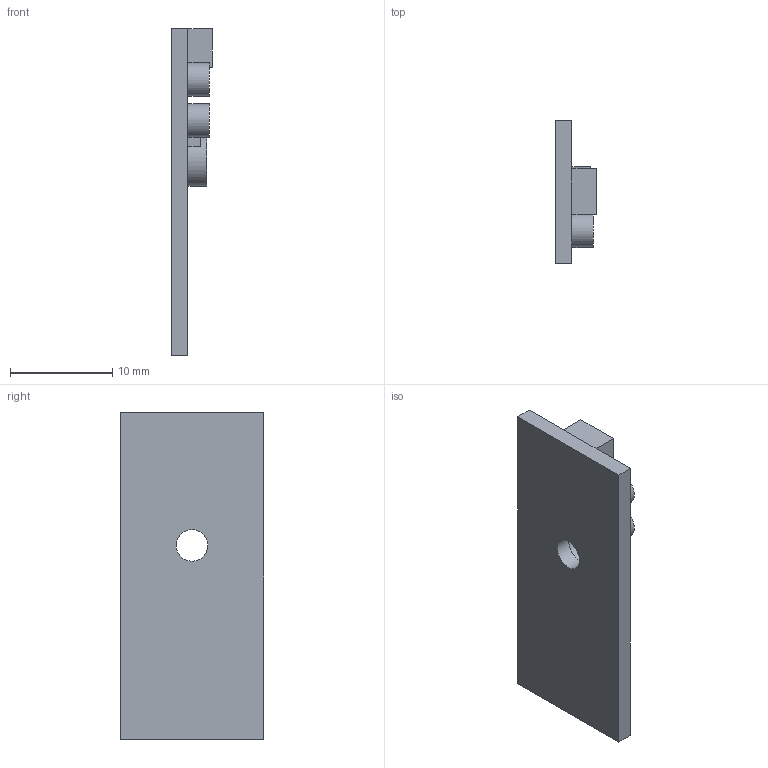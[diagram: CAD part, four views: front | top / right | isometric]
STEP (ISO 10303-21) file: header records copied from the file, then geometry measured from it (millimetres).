
FILE_DESCRIPTION(('Open CASCADE Model'),'2;1');
FILE_NAME('frame-mounted-fsr-amplifier-pcb.step','2026-11-14T14:31:49',( 'Author'),('Open CASCADE'),'Open CASCADE STEP processor 8.0', 'Open CASCADE 8.0','Unknown');
FILE_SCHEMA(('AP242_MANAGED_MODEL_BASED_3D_ENGINEERING_MIM_LF {1 0 10303 442 1 1 4 }' ));
Length unit declared in the file: millimetre
Products named in the file (1): Frame Mounted FSR Amplifier PCB
Bounding box: 4 x 14 x 32 mm (x, y, z)
Volume: 811.5 mm3; surface area: 1179 mm2
Topology: 1 solids, 1 shells, 23 faces, 53 edges, 35 vertices
Faces by surface type: plane 18, cylinder 5
Full cylindrical faces by diameter (mm): 3.1 x2, 3.3 x2, 4.9 x1
Entity records: 1362 total; most frequent: CARTESIAN_POINT 220, DIRECTION 218, LINE 134, VECTOR 134, ORIENTED_EDGE 106, PCURVE 106, DEFINITIONAL_REPRESENTATION 106, EDGE_CURVE 53
